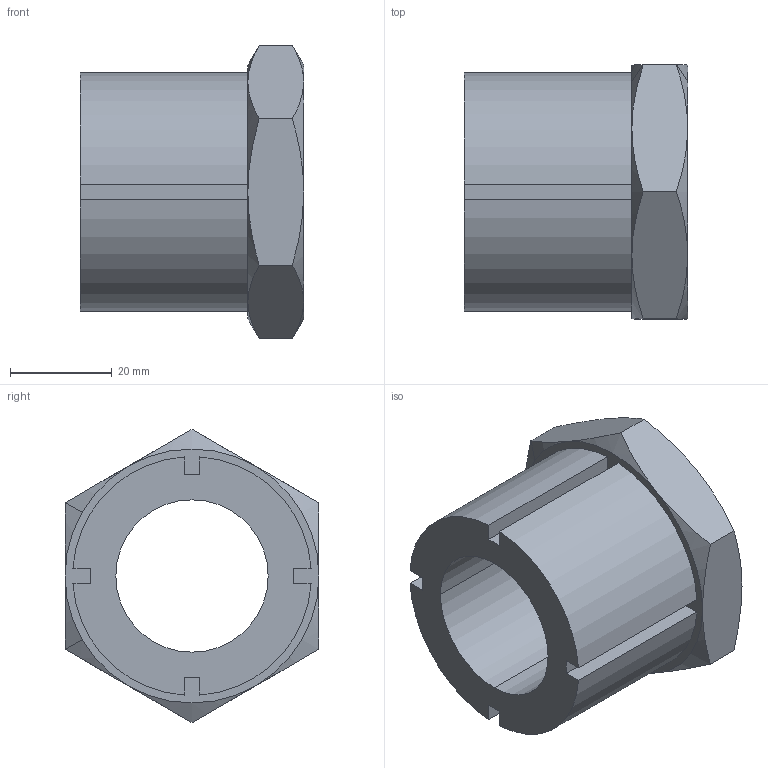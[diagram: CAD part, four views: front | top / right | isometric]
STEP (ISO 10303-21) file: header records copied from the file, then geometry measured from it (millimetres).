
FILE_DESCRIPTION((''),'2;1');
FILE_NAME('C:\WIXROYD\Positioning\3840\3840W030.stp','2003-01-09T15:39:31',('Administrator'),(''),'Autodesk Inventor (tm) 5.0','Autodesk Inventor (tm) 5.0','');
FILE_SCHEMA(('CONFIG_CONTROL_DESIGN'));
Length unit declared in the file: millimetre
Products named in the file (1): 3840W030
Bounding box: 44 x 50 x 57.73 mm (x, y, z)
Volume: 48316 mm3; surface area: 14549.3 mm2
Topology: 1 solids, 1 shells, 45 faces, 110 edges, 68 vertices
Faces by surface type: plane 21, cone 16, cylinder 8
Entity records: 1383 total; most frequent: CARTESIAN_POINT 272, ORIENTED_EDGE 220, DIRECTION 210, EDGE_CURVE 110, AXIS2_PLACEMENT_3D 78, VERTEX_POINT 68, VECTOR 54, LINE 54
